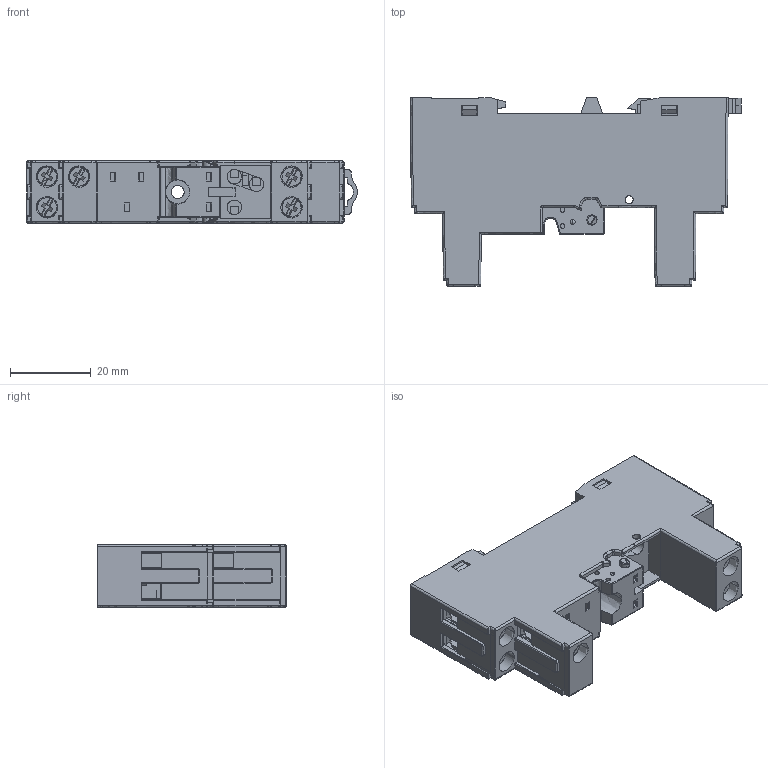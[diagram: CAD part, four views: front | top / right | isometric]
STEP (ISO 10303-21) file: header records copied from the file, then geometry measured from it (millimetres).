
FILE_DESCRIPTION(('STEP AP214'),'2;1');
FILE_NAME('95833 - 31 marzo.stp','2021-03-30T16:55:57',(''),(''),'2007.1.106','THINKDESIGN','');
FILE_SCHEMA(('AUTOMOTIVE_DESIGN'));
Length unit declared in the file: millimetre
Products named in the file (1): top
Bounding box: 82.09 x 46.8 x 15.5 mm (x, y, z)
Surface area: 22750 mm2 (no closed solid volume)
Topology: 0 solids, 0 shells, 781 faces, 4521 edges, 4477 vertices
Faces by surface type: bspline 781
Entity records: 33743 total; most frequent: CARTESIAN_POINT 22407, COMPOSITE_CURVE_SEGMENT 4477, QUASI_UNIFORM_CURVE 3032, B_SPLINE_CURVE_WITH_KNOTS 838, OUTER_BOUNDARY_CURVE 781, CURVE_BOUNDED_SURFACE 781, STYLED_ITEM 781, B_SPLINE_SURFACE_WITH_KNOTS 559
